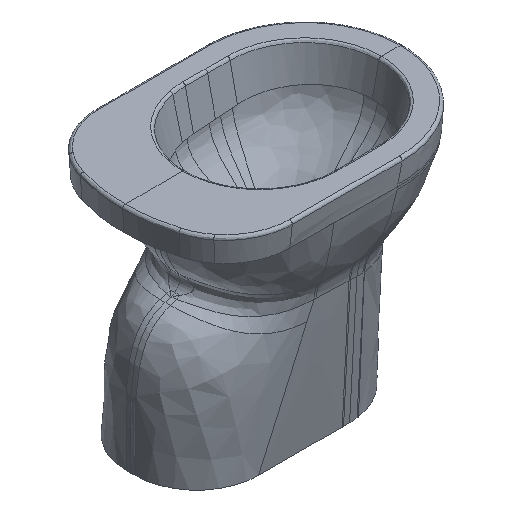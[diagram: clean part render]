
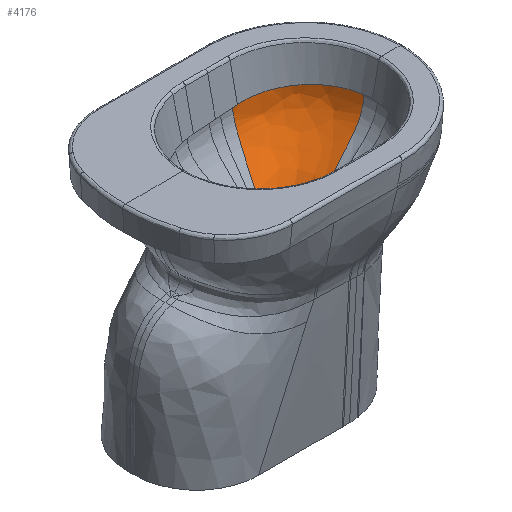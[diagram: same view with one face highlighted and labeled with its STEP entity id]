
A CAD part, isometric view. The second image highlights one B-rep face of the part: STEP entity #4176.
In plain terms, the highlighted free-form (B-spline) face has degree [5, 5] with [12, 6] control points.
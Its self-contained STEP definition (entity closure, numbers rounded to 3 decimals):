
#4046=CARTESIAN_POINT('Control Point',(324.385,129.39,-65.545)) ;
#4047=CARTESIAN_POINT('Control Point',(329.922,132.982,-101.952)) ;
#4048=CARTESIAN_POINT('Control Point',(323.987,112.418,-133.876)) ;
#4049=CARTESIAN_POINT('Control Point',(306.581,67.697,-161.316)) ;
#4050=CARTESIAN_POINT('Control Point',(300.579,46.014,-193.357)) ;
#4051=CARTESIAN_POINT('Control Point',(305.981,47.37,-230.)) ;
#4052=CARTESIAN_POINT('Control Point',(332.617,129.481,-65.022)) ;
#4053=CARTESIAN_POINT('Control Point',(338.858,132.269,-101.706)) ;
#4054=CARTESIAN_POINT('Control Point',(331.473,111.718,-133.699)) ;
#4055=CARTESIAN_POINT('Control Point',(310.459,67.83,-161.001)) ;
#4056=CARTESIAN_POINT('Control Point',(302.91,46.204,-193.102)) ;
#4057=CARTESIAN_POINT('Control Point',(308.823,46.84,-230.)) ;
#4058=CARTESIAN_POINT('Control Point',(341.033,128.923,-64.488)) ;
#4059=CARTESIAN_POINT('Control Point',(347.854,130.825,-101.456)) ;
#4060=CARTESIAN_POINT('Control Point',(338.992,110.405,-133.519)) ;
#4061=CARTESIAN_POINT('Control Point',(314.449,67.661,-160.677)) ;
#4062=CARTESIAN_POINT('Control Point',(305.332,46.215,-192.837)) ;
#4063=CARTESIAN_POINT('Control Point',(311.642,46.067,-230.)) ;
#4064=CARTESIAN_POINT('Control Point',(349.317,127.657,-63.962)) ;
#4065=CARTESIAN_POINT('Control Point',(356.546,128.648,-101.213)) ;
#4066=CARTESIAN_POINT('Control Point',(346.242,108.479,-133.343)) ;
#4067=CARTESIAN_POINT('Control Point',(318.406,67.151,-160.354)) ;
#4068=CARTESIAN_POINT('Control Point',(307.766,46.014,-192.573)) ;
#4069=CARTESIAN_POINT('Control Point',(314.323,45.068,-230.)) ;
#4070=CARTESIAN_POINT('Control Point',(368.501,123.22,-62.745)) ;
#4071=CARTESIAN_POINT('Control Point',(376.349,122.074,-100.658)) ;
#4072=CARTESIAN_POINT('Control Point',(362.728,102.743,-132.942)) ;
#4073=CARTESIAN_POINT('Control Point',(327.638,65.227,-159.598)) ;
#4074=CARTESIAN_POINT('Control Point',(313.512,45.072,-191.951)) ;
#4075=CARTESIAN_POINT('Control Point',(320.351,42.28,-230.)) ;
#4076=CARTESIAN_POINT('Control Point',(387.247,114.904,-61.555)) ;
#4077=CARTESIAN_POINT('Control Point',(394.897,111.744,-100.137)) ;
#4078=CARTESIAN_POINT('Control Point',(378.094,93.888,-132.564)) ;
#4079=CARTESIAN_POINT('Control Point',(336.839,61.337,-158.839)) ;
#4080=CARTESIAN_POINT('Control Point',(319.41,42.824,-191.317)) ;
#4081=CARTESIAN_POINT('Control Point',(325.806,38.347,-230.)) ;
#4082=CARTESIAN_POINT('Control Point',(397.449,108.835,-60.908)) ;
#4083=CARTESIAN_POINT('Control Point',(404.708,104.673,-99.862)) ;
#4084=CARTESIAN_POINT('Control Point',(386.196,87.867,-132.366)) ;
#4085=CARTESIAN_POINT('Control Point',(341.914,58.417,-158.417)) ;
#4086=CARTESIAN_POINT('Control Point',(322.724,41.049,-190.962)) ;
#4087=CARTESIAN_POINT('Control Point',(328.627,35.762,-230.)) ;
#4088=CARTESIAN_POINT('Control Point',(419.484,92.211,-59.509)) ;
#4089=CARTESIAN_POINT('Control Point',(425.363,86.231,-99.292)) ;
#4090=CARTESIAN_POINT('Control Point',(403.204,72.233,-131.952)) ;
#4091=CARTESIAN_POINT('Control Point',(353.007,50.217,-157.49)) ;
#4092=CARTESIAN_POINT('Control Point',(330.088,35.87,-190.172)) ;
#4093=CARTESIAN_POINT('Control Point',(334.446,29.191,-230.)) ;
#4094=CARTESIAN_POINT('Control Point',(436.989,69.608,-58.399)) ;
#4095=CARTESIAN_POINT('Control Point',(440.691,63.315,-98.896)) ;
#4096=CARTESIAN_POINT('Control Point',(415.714,52.952,-131.667)) ;
#4097=CARTESIAN_POINT('Control Point',(362.058,38.52,-156.71)) ;
#4098=CARTESIAN_POINT('Control Point',(336.31,27.984,-189.488)) ;
#4099=CARTESIAN_POINT('Control Point',(338.469,21.344,-230.)) ;
#4100=CARTESIAN_POINT('Control Point',(444.952,55.019,-57.893)) ;
#4101=CARTESIAN_POINT('Control Point',(447.318,49.195,-98.741)) ;
#4102=CARTESIAN_POINT('Control Point',(421.079,41.111,-131.556)) ;
#4103=CARTESIAN_POINT('Control Point',(366.235,30.766,-156.338)) ;
#4104=CARTESIAN_POINT('Control Point',(339.236,22.587,-189.153)) ;
#4105=CARTESIAN_POINT('Control Point',(340.083,16.574,-230.)) ;
#4106=CARTESIAN_POINT('Control Point',(450.48,39.313,-57.542)) ;
#4107=CARTESIAN_POINT('Control Point',(451.702,34.658,-98.66)) ;
#4108=CARTESIAN_POINT('Control Point',(424.581,28.947,-131.499)) ;
#4109=CARTESIAN_POINT('Control Point',(369.116,22.181,-156.061)) ;
#4110=CARTESIAN_POINT('Control Point',(341.252,16.426,-188.894)) ;
#4111=CARTESIAN_POINT('Control Point',(340.988,11.683,-230.)) ;
#4112=CARTESIAN_POINT('Control Point',(453.428,23.076,-57.355)) ;
#4113=CARTESIAN_POINT('Control Point',(453.947,20.177,-98.648)) ;
#4114=CARTESIAN_POINT('Control Point',(426.309,16.847,-131.493)) ;
#4115=CARTESIAN_POINT('Control Point',(370.516,13.088,-155.892)) ;
#4116=CARTESIAN_POINT('Control Point',(342.147,9.741,-188.727)) ;
#4117=CARTESIAN_POINT('Control Point',(341.202,6.806,-230.)) ;
#4119=CARTESIAN_POINT('Control Point',(324.385,129.39,-65.545)) ;
#4120=CARTESIAN_POINT('Control Point',(329.922,132.982,-101.952)) ;
#4121=CARTESIAN_POINT('Control Point',(323.987,112.418,-133.876)) ;
#4122=CARTESIAN_POINT('Control Point',(306.581,67.697,-161.316)) ;
#4123=CARTESIAN_POINT('Control Point',(300.579,46.014,-193.357)) ;
#4124=CARTESIAN_POINT('Control Point',(305.981,47.37,-230.)) ;
#4125=CARTESIAN_POINT('Vertex',(324.385,129.39,-65.545)) ;
#4127=CARTESIAN_POINT('Vertex',(305.981,47.37,-230.)) ;
#4131=CARTESIAN_POINT('Control Point',(305.981,47.37,-230.)) ;
#4132=CARTESIAN_POINT('Control Point',(308.823,46.84,-230.)) ;
#4133=CARTESIAN_POINT('Control Point',(311.642,46.067,-230.)) ;
#4134=CARTESIAN_POINT('Control Point',(314.323,45.068,-230.)) ;
#4135=CARTESIAN_POINT('Control Point',(320.351,42.28,-230.)) ;
#4136=CARTESIAN_POINT('Control Point',(325.806,38.347,-230.)) ;
#4137=CARTESIAN_POINT('Control Point',(328.627,35.762,-230.)) ;
#4138=CARTESIAN_POINT('Control Point',(334.446,29.191,-230.)) ;
#4139=CARTESIAN_POINT('Control Point',(338.469,21.344,-230.)) ;
#4140=CARTESIAN_POINT('Control Point',(340.083,16.574,-230.)) ;
#4141=CARTESIAN_POINT('Control Point',(340.988,11.683,-230.)) ;
#4142=CARTESIAN_POINT('Control Point',(341.202,6.806,-230.)) ;
#4143=CARTESIAN_POINT('Vertex',(341.202,6.806,-230.)) ;
#4147=CARTESIAN_POINT('Control Point',(453.428,23.076,-57.355)) ;
#4148=CARTESIAN_POINT('Control Point',(453.947,20.177,-98.648)) ;
#4149=CARTESIAN_POINT('Control Point',(426.309,16.847,-131.493)) ;
#4150=CARTESIAN_POINT('Control Point',(370.516,13.088,-155.892)) ;
#4151=CARTESIAN_POINT('Control Point',(342.147,9.741,-188.727)) ;
#4152=CARTESIAN_POINT('Control Point',(341.202,6.806,-230.)) ;
#4153=CARTESIAN_POINT('Vertex',(453.428,23.076,-57.355)) ;
#4157=CARTESIAN_POINT('Control Point',(324.385,129.39,-65.545)) ;
#4158=CARTESIAN_POINT('Control Point',(332.617,129.481,-65.022)) ;
#4159=CARTESIAN_POINT('Control Point',(341.033,128.923,-64.488)) ;
#4160=CARTESIAN_POINT('Control Point',(349.317,127.657,-63.962)) ;
#4161=CARTESIAN_POINT('Control Point',(368.501,123.22,-62.745)) ;
#4162=CARTESIAN_POINT('Control Point',(387.247,114.904,-61.555)) ;
#4163=CARTESIAN_POINT('Control Point',(397.449,108.835,-60.908)) ;
#4164=CARTESIAN_POINT('Control Point',(419.484,92.211,-59.509)) ;
#4165=CARTESIAN_POINT('Control Point',(436.989,69.608,-58.399)) ;
#4166=CARTESIAN_POINT('Control Point',(444.952,55.019,-57.893)) ;
#4167=CARTESIAN_POINT('Control Point',(450.48,39.313,-57.542)) ;
#4168=CARTESIAN_POINT('Control Point',(453.428,23.076,-57.355)) ;
#4171=ORIENTED_EDGE('',*,*,#4129,.T.) ;
#4172=ORIENTED_EDGE('',*,*,#4145,.F.) ;
#4173=ORIENTED_EDGE('',*,*,#4155,.F.) ;
#4174=ORIENTED_EDGE('',*,*,#4169,.T.) ;
#4176=ADVANCED_FACE('Composizione.8',(#4175),#4045,.F.) ;
#4118=B_SPLINE_CURVE_WITH_KNOTS('',5,(#4119,#4120,#4121,#4122,#4123,#4124),.UNSPECIFIED.,.F.,.U.,(6,6),(0.,191.179),.UNSPECIFIED.) ;
#4130=B_SPLINE_CURVE_WITH_KNOTS('',5,(#4131,#4132,#4133,#4134,#4135,#4136,#4137,#4138,#4139,#4140,#4141,#4142),.UNSPECIFIED.,.F.,.U.,(6,3,3,6),(0.,31.23,74.095,131.487),.UNSPECIFIED.) ;
#4146=B_SPLINE_CURVE_WITH_KNOTS('',5,(#4147,#4148,#4149,#4150,#4151,#4152),.UNSPECIFIED.,.F.,.U.,(6,6),(0.,191.179),.UNSPECIFIED.) ;
#4156=B_SPLINE_CURVE_WITH_KNOTS('',5,(#4157,#4158,#4159,#4160,#4161,#4162,#4163,#4164,#4165,#4166,#4167,#4168),.UNSPECIFIED.,.F.,.U.,(6,3,3,6),(0.,31.23,74.095,131.487),.UNSPECIFIED.) ;
#4045=B_SPLINE_SURFACE_WITH_KNOTS('',5,5,((#4046,#4047,#4048,#4049,#4050,#4051),(#4052,#4053,#4054,#4055,#4056,#4057),(#4058,#4059,#4060,#4061,#4062,#4063),(#4064,#4065,#4066,#4067,#4068,#4069),(#4070,#4071,#4072,#4073,#4074,#4075),(#4076,#4077,#4078,#4079,#4080,#4081),(#4082,#4083,#4084,#4085,#4086,#4087),(#4088,#4089,#4090,#4091,#4092,#4093),(#4094,#4095,#4096,#4097,#4098,#4099),(#4100,#4101,#4102,#4103,#4104,#4105),(#4106,#4107,#4108,#4109,#4110,#4111),(#4112,#4113,#4114,#4115,#4116,#4117)),.UNSPECIFIED.,.F.,.F.,.U.,(6,3,3,6),(6,6),(0.,31.23,74.095,131.487),(0.,191.179),.UNSPECIFIED.) ;
#4129=EDGE_CURVE('',#4126,#4128,#4118,.T.) ;
#4145=EDGE_CURVE('',#4144,#4128,#4130,.F.) ;
#4155=EDGE_CURVE('',#4154,#4144,#4146,.T.) ;
#4169=EDGE_CURVE('',#4154,#4126,#4156,.F.) ;
#4170=EDGE_LOOP('',(#4171,#4172,#4173,#4174)) ;
#4175=FACE_OUTER_BOUND('',#4170,.T.) ;
#4126=VERTEX_POINT('',#4125) ;
#4128=VERTEX_POINT('',#4127) ;
#4144=VERTEX_POINT('',#4143) ;
#4154=VERTEX_POINT('',#4153) ;
